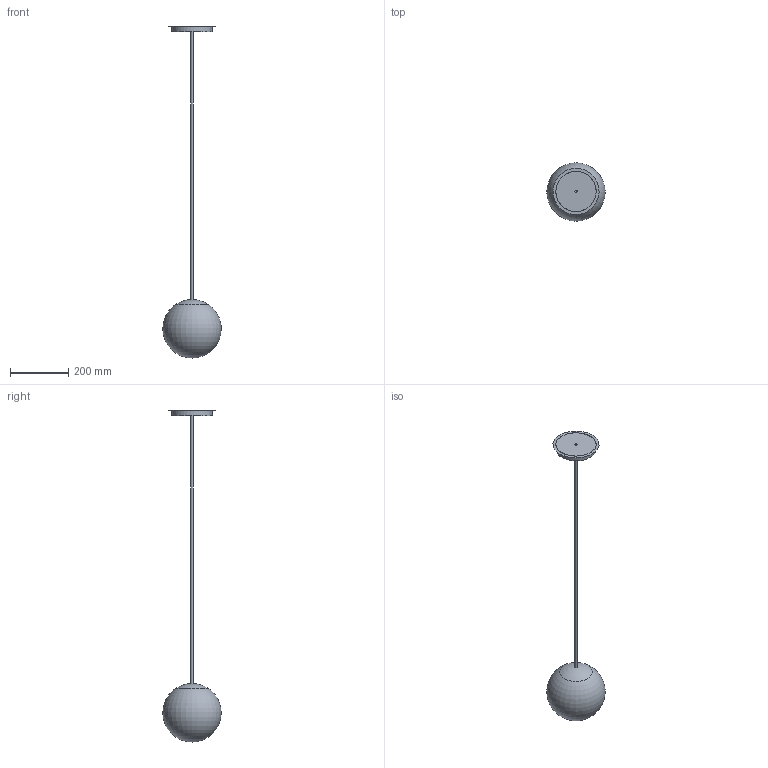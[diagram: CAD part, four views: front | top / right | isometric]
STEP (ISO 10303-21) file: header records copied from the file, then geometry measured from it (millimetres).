
FILE_DESCRIPTION(('STEP AP214'),'1');
FILE_NAME('Muna_200.stp','2018-12-19T00:22:28',(' '),(' '),'Spatial InterOp 3D',' ',' ');
FILE_SCHEMA(('AUTOMOTIVE_DESIGN { 1 0 10303 214 1 1 1 1 }'));
Length unit declared in the file: millimetre
Products named in the file (1): Bry_a
Bounding box: 199.91 x 199.95 x 1137.46 mm (x, y, z)
Volume: 4486900.9 mm3; surface area: 224104 mm2
Topology: 3 solids, 6 shells, 14 faces, 40 edges, 32 vertices
Faces by surface type: bspline 14
Entity records: 5570 total; most frequent: CARTESIAN_POINT 5292, ORIENTED_EDGE 45, EDGE_CURVE 28, VERTEX_POINT 28, DIRECTION 24, EDGE_LOOP 23, B_SPLINE_CURVE_WITH_KNOTS 22, B_SPLINE_SURFACE_WITH_KNOTS 14
